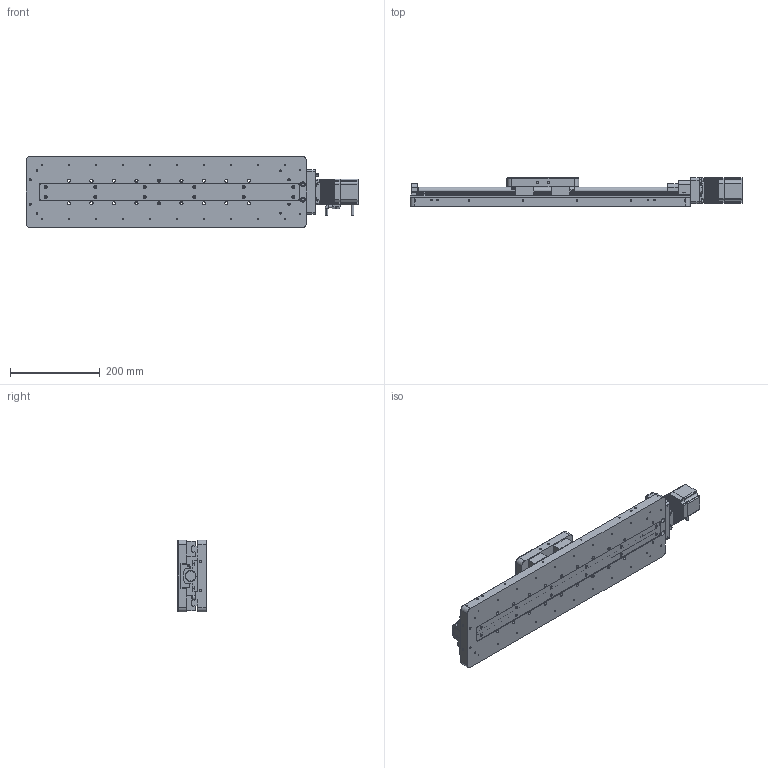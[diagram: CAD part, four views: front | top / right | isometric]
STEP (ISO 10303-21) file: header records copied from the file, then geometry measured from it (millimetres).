
FILE_DESCRIPTION (( 'STEP AP203' ), '1' );
FILE_NAME ('7STA09400Cµç¶¯Æ½ÒÆÌ¨.STEP', '2022-04-14T05:24:22', ( '' ), ( '' ), 'SwSTEP 2.0', 'SolidWorks 2018', '' );
FILE_SCHEMA (( 'CONFIG_CONTROL_DESIGN' ));
Length unit declared in the file: millimetre
Products named in the file (1): 7STA09400C萇雄す痄怢
Bounding box: 738 x 64 x 160 mm (x, y, z)
Surface area: 499642.4 mm2 (no closed solid volume)
Topology: 0 solids, 462 shells, 2608 faces, 9014 edges, 6769 vertices
Faces by surface type: cylinder 1322, plane 1090, torus 100, cone 54, sphere 28, bspline 14
Entity records: 98049 total; most frequent: CARTESIAN_POINT 20464, DIRECTION 17391, ORIENTED_EDGE 12532, EDGE_CURVE 8940, VERTEX_POINT 6737, AXIS2_PLACEMENT_3D 6112, VECTOR 5167, LINE 5167
